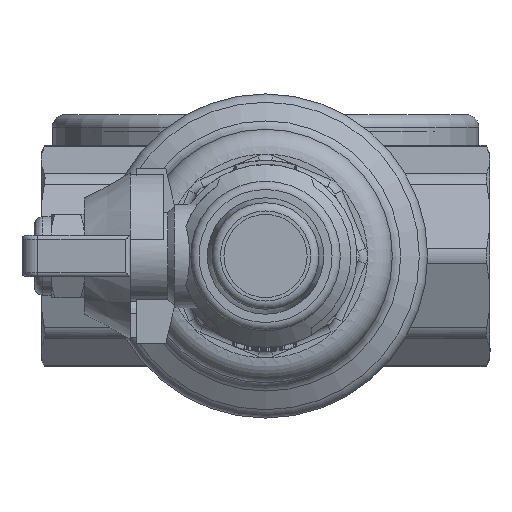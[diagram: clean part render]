
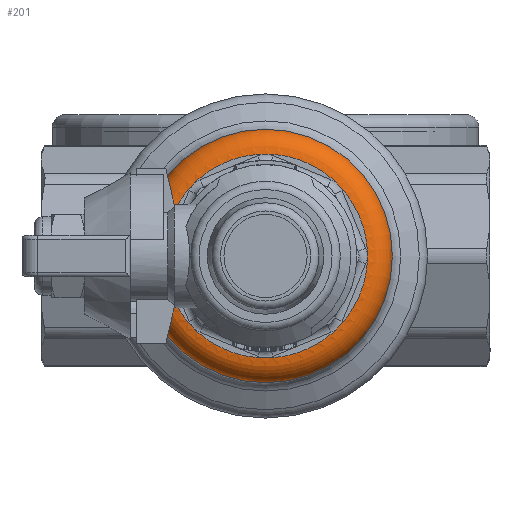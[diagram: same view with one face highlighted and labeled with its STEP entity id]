
A CAD part, front view. The second image highlights one B-rep face of the part: STEP entity #201.
In plain terms, the highlighted toroidal (fillet/blend) face has major radius 12.25 mm and minor radius 3 mm.
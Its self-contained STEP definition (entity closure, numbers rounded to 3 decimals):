
#201=ADVANCED_FACE('',(#2384,#2386),#2388,.T.);
#2384=FACE_OUTER_BOUND('',#2385,.T.);
#2385=EDGE_LOOP('',(#9265));
#2386=FACE_OUTER_BOUND('',#2387,.T.);
#2387=EDGE_LOOP('',(#9266));
#2388=TOROIDAL_SURFACE('',#2389,12.25,3.);
#2389=AXIS2_PLACEMENT_3D('',#2390,#2391,#2392);
#2390=CARTESIAN_POINT('',(0.,-58.1,0.));
#2391=DIRECTION('',(0.,1.,0.));
#2392=DIRECTION('',(0.,0.,-1.));
#9265=ORIENTED_EDGE('',*,*,#14833,.F.);
#9266=ORIENTED_EDGE('',*,*,#14842,.T.);
#14833=EDGE_CURVE('',#17621,#17621,#17622,.T.);
#14842=EDGE_CURVE('',#17635,#17635,#17636,.T.);
#17621=VERTEX_POINT('',#26478);
#17622=CIRCLE('',#26479,15.25);
#17635=VERTEX_POINT('',#26735);
#17636=CIRCLE('',#26736,12.25);
#26478=CARTESIAN_POINT('',(0.,-58.1,-15.25));
#26479=AXIS2_PLACEMENT_3D('',#26480,#26481,#26482);
#26480=CARTESIAN_POINT('',(0.,-58.1,0.));
#26481=DIRECTION('',(0.,1.,0.));
#26482=DIRECTION('',(0.,0.,-1.));
#26735=CARTESIAN_POINT('',(0.,-61.1,-12.25));
#26736=AXIS2_PLACEMENT_3D('',#26737,#26738,#26739);
#26737=CARTESIAN_POINT('',(0.,-61.1,0.));
#26738=DIRECTION('',(0.,1.,0.));
#26739=DIRECTION('',(0.,0.,-1.));
